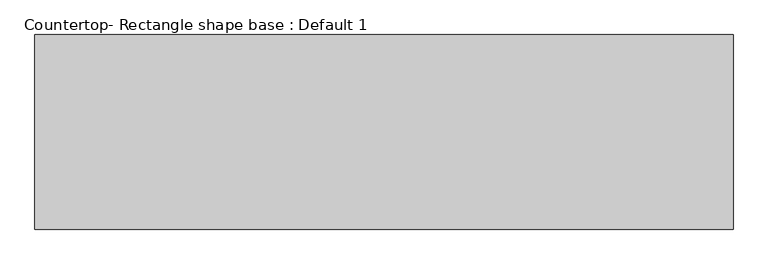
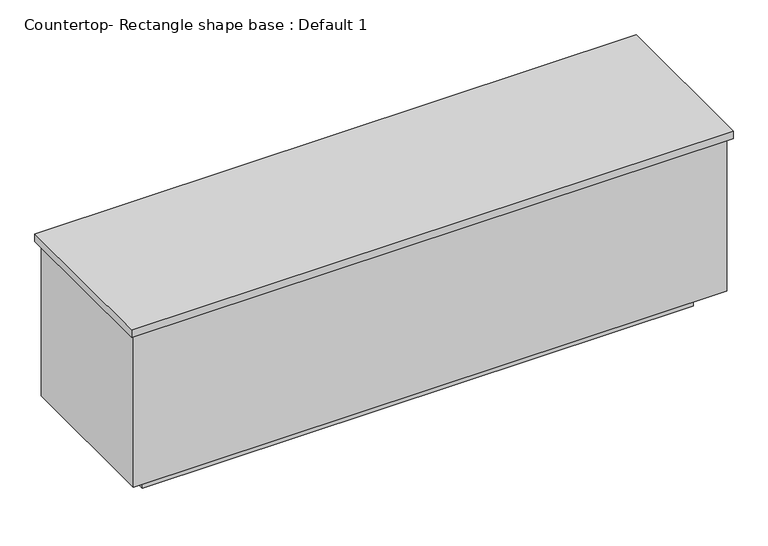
"""IFC4 building model written with IfcOpenShell, lengths in millimetres: proxy geometry, Countertop- Rectangle shape base : Default 1."""

from ifc_helpers import new_model, si_unit, frame, origin, origin_with_axes, place, context, project, spatial, polyline, outline, extrude, source, transform, mapped, element, save


def countertop_rectangle_shape_base_default_1_33887ab2(model_context):
    return source(origin(), model_context, "Body", "SweptSolid", [
        extrude(outline(polyline([(-673.1, -19.05), (-673.1, 781.05), (2197.1, 781.05), (2197.1, -19.05), (-673.1, -19.05)])), frame((0.0, 0.0, 876.3), z_axis=(0.0, 0.0, 1.0), x_axis=(1.0, 0.0, 0.0)), (0.0, 0.0, 1.0), 38.1),
        extrude(outline(polyline([(2178.05, 762.0), (2178.05, 0.0), (-654.05, 0.0), (-654.05, 762.0), (2178.05, 762.0)])), frame((0.0, 0.0, 101.6), z_axis=(0.0, 0.0, 1.0), x_axis=(1.0, 0.0, 0.0)), (0.0, 0.0, 1.0), 774.7),
        extrude(outline(polyline([(2076.45, 660.4), (2076.45, 101.6), (-552.45, 101.6), (-552.45, 660.4), (2076.45, 660.4)])), origin_with_axes(), (0.0, 0.0, 1.0), 101.6),
    ])


if __name__ == "__main__":
    model = new_model("IFC4")
    model_context = context("Model", 3, world=origin())
    ifc_project = project(units=[si_unit("LENGTHUNIT", "METRE", prefix="MILLI")], contexts=[model_context])
    site = spatial("IfcSite", under=ifc_project)
    building = spatial("IfcBuilding", under=site)
    placement = place(None, origin())
    countertop_rectangle_shape_base_default_1_shape = countertop_rectangle_shape_base_default_1_33887ab2(model_context)
    element("IfcBuildingElementProxy", 1, Name="Countertop- Rectangle shape base : Default 1", ObjectType="Countertop- Rectangle shape base : Default 1", at=placement, inside=building, context=model_context, shape_type="MappedRepresentation", body=[
        mapped(countertop_rectangle_shape_base_default_1_shape, transform((0.0, 0.0, 0.0), x_axis=(1.0, 0.0, 0.0), y_axis=(0.0, 1.0, 0.0), z_axis=(0.0, 0.0, 1.0))),
    ])
    save(model, "model.ifc")
